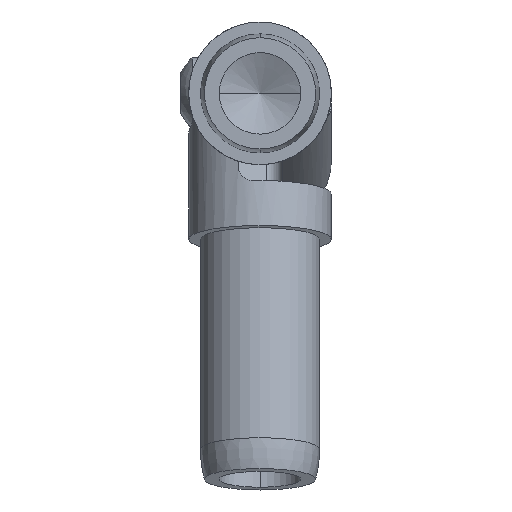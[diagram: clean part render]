
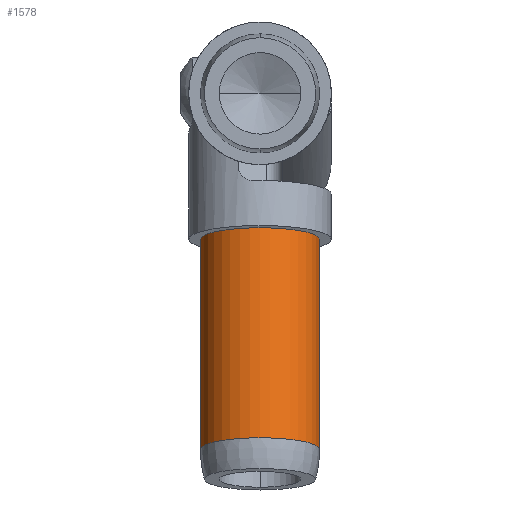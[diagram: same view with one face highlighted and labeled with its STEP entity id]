
A CAD part, left-side view. The second image highlights one B-rep face of the part: STEP entity #1578.
In plain terms, the highlighted cylindrical face has radius 9.271 mm (diameter 18.542 mm), a partial arc.
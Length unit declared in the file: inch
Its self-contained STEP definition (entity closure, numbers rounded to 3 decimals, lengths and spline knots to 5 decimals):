
#259 = CIRCLE ( 'NONE', #5012, 0.365 ) ;
#317 = LINE ( 'NONE', #12781, #11477 ) ;
#577 = CARTESIAN_POINT ( 'NONE',  ( -0.30246, 0.365, -2.36686 ) ) ;
#1104 = CARTESIAN_POINT ( 'NONE',  ( -0.26635, -0.365, -2.18287 ) ) ;
#1110 = DIRECTION ( 'NONE',  ( 0., 1., 0. ) ) ;
#1260 = DIRECTION ( 'NONE',  ( -0.193, 0., -0.981 ) ) ;
#1313 = CARTESIAN_POINT ( 'NONE',  ( -0.30246, 0., -2.36686 ) ) ;
#1578 = ADVANCED_FACE ( 'NONE', ( #6087 ), #9997, .T. ) ;
#2821 = EDGE_CURVE ( 'NONE', #3101, #6934, #11874, .T. ) ;
#3101 = VERTEX_POINT ( 'NONE', #5564 ) ;
#4490 = DIRECTION ( 'NONE',  ( -0.193, 0., -0.981 ) ) ;
#4577 = LINE ( 'NONE', #577, #7140 ) ;
#4875 = EDGE_CURVE ( 'NONE', #5991, #9320, #259, .T. ) ;
#5012 = AXIS2_PLACEMENT_3D ( 'NONE', #10816, #4490, #11855 ) ;
#5564 = CARTESIAN_POINT ( 'NONE',  ( -0.01362, -0.365, -0.89493 ) ) ;
#5766 = EDGE_LOOP ( 'NONE', ( #12291, #6156, #7984, #12816 ) ) ;
#5991 = VERTEX_POINT ( 'NONE', #1104 ) ;
#6087 = FACE_OUTER_BOUND ( 'NONE', #5766, .T. ) ;
#6156 = ORIENTED_EDGE ( 'NONE', *, *, #2821, .T. ) ;
#6934 = VERTEX_POINT ( 'NONE', #13948 ) ;
#7135 = EDGE_CURVE ( 'NONE', #6934, #9320, #4577, .T. ) ;
#7140 = VECTOR ( 'NONE', #8318, 39.37008 ) ;
#7787 = AXIS2_PLACEMENT_3D ( 'NONE', #1313, #1260, #1110 ) ;
#7807 = DIRECTION ( 'NONE',  ( 0., 1., 0. ) ) ;
#7825 = DIRECTION ( 'NONE',  ( -0.193, 0., -0.981 ) ) ;
#7856 = CARTESIAN_POINT ( 'NONE',  ( -0.01362, 0., -0.89493 ) ) ;
#7984 = ORIENTED_EDGE ( 'NONE', *, *, #7135, .T. ) ;
#8318 = DIRECTION ( 'NONE',  ( -0.193, 0., -0.981 ) ) ;
#9320 = VERTEX_POINT ( 'NONE', #10247 ) ;
#9734 = DIRECTION ( 'NONE',  ( -0.193, 0., -0.981 ) ) ;
#9997 = CYLINDRICAL_SURFACE ( 'NONE', #7787, 0.365 ) ;
#10247 = CARTESIAN_POINT ( 'NONE',  ( -0.26635, 0.365, -2.18287 ) ) ;
#10816 = CARTESIAN_POINT ( 'NONE',  ( -0.26635, 0., -2.18287 ) ) ;
#11477 = VECTOR ( 'NONE', #9734, 39.37008 ) ;
#11649 = EDGE_CURVE ( 'NONE', #3101, #5991, #317, .T. ) ;
#11747 = AXIS2_PLACEMENT_3D ( 'NONE', #7856, #7825, #7807 ) ;
#11855 = DIRECTION ( 'NONE',  ( 0., 1., 0. ) ) ;
#11874 = CIRCLE ( 'NONE', #11747, 0.365 ) ;
#12291 = ORIENTED_EDGE ( 'NONE', *, *, #11649, .F. ) ;
#12781 = CARTESIAN_POINT ( 'NONE',  ( -0.30246, -0.365, -2.36686 ) ) ;
#12816 = ORIENTED_EDGE ( 'NONE', *, *, #4875, .F. ) ;
#13948 = CARTESIAN_POINT ( 'NONE',  ( -0.01362, 0.365, -0.89493 ) ) ;
